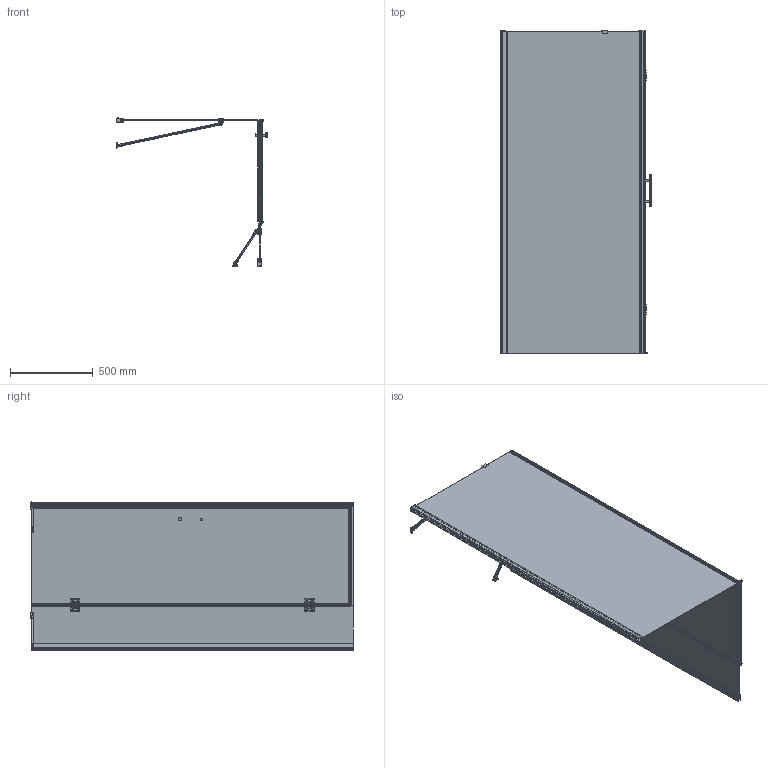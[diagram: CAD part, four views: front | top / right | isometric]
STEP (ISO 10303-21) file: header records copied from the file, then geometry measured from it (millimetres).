
FILE_DESCRIPTION(/* description */ (''),/* implementation_level */ '2;1');
FILE_NAME(/* name */ 'c:\worker\convert-fusion-r08\tmp\job-1\59\output\files\8dbc9b37-176c-4508-ac6a-d15de7ec76f7\33f76248-3731-48fb-ada7-9e1bd918732c.stp',/* time_stamp */ '2020-10-21T07:11:44+00:00',/* author */ (''),/* organization */ (''),/* preprocessor_version */ 'ST-DEVELOPER v18.1',/* originating_system */ 'Autodesk Translation Framework v9.3.0.1241',/* authorisation */ '');
FILE_SCHEMA (('AUTOMOTIVE_DESIGN { 1 0 10303 214 3 1 1 }'));
Products named in the file (2): !MH9090; !ADR90X v2
Assembly tree (1 placements, depth 2):
  !MH9090
    !ADR90X v2
Bounding box: 920.23 x 1955.35 x 897.02 mm (x, y, z)
Volume: 20684366.6 mm3; surface area: 8763483.6 mm2
Topology: 64 solids, 64 shells, 3395 faces, 8551 edges, 5276 vertices
Faces by surface type: plane 1508, cylinder 904, bspline 785, torus 116, cone 58, sphere 24
Full cylindrical faces by diameter (mm): 1.85 x4, 2 x4, 2.264 x8, 2.544 x4, 3.5 x4, 3.6 x49, 4 x14, 4.2 x2, 5 x12, 5.1 x1, 5.992 x2, 6 x6, 6.5 x4, 7 x2, 7.2 x4, 7.5 x4, 8.5 x2, 9.6 x8, 10 x2, 10.6 x8, 10.8 x4, 11.452 x4, 11.6 x8, 11.8 x8
Entity records: 306711 total; most frequent: CARTESIAN_POINT 229719, ORIENTED_EDGE 17042, DIRECTION 14173, EDGE_CURVE 8521, VERTEX_POINT 5276, LINE 4817, VECTOR 4817, AXIS2_PLACEMENT_3D 4678
